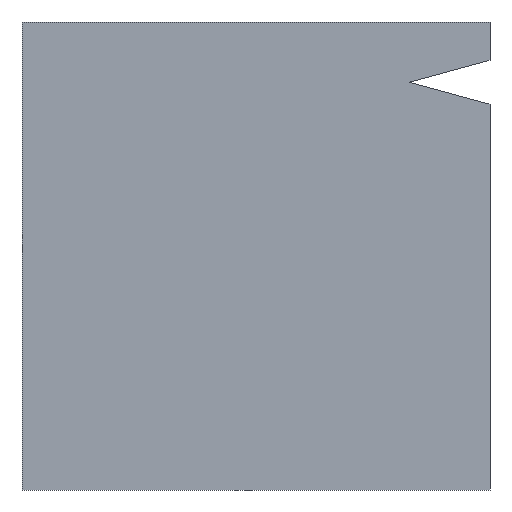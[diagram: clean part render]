
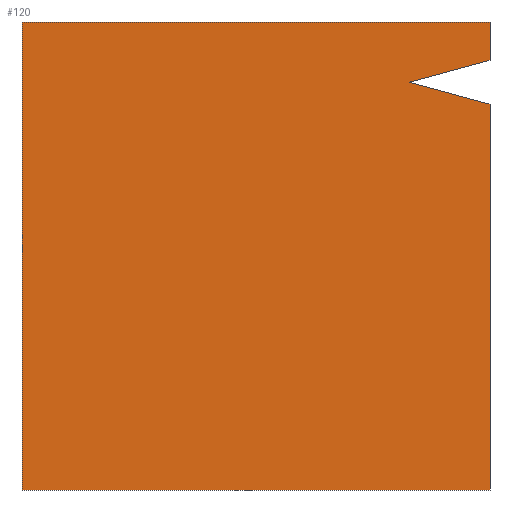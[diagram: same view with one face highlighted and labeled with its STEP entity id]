
A CAD part, front view. The second image highlights one B-rep face of the part: STEP entity #120.
In plain terms, the highlighted planar face has unit normal (0, -1, 0).
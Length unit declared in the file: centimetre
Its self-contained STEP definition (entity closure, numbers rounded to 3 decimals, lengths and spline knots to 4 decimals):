
#31 = LINE ( 'NONE', #240, #108 ) ;
#35 = ORIENTED_EDGE ( 'NONE', *, *, #460, .F. ) ;
#36 = DIRECTION ( 'NONE',  ( -0.965, 0., 0.263 ) ) ;
#38 = EDGE_CURVE ( 'NONE', #510, #434, #423, .T. ) ;
#56 = CARTESIAN_POINT ( 'NONE',  ( 827.1763, 0., 871.2382 ) ) ;
#64 = CARTESIAN_POINT ( 'NONE',  ( 1000., 0., 1000. ) ) ;
#104 = CARTESIAN_POINT ( 'NONE',  ( 0., 0., 0. ) ) ;
#108 = VECTOR ( 'NONE', #36, 100. ) ;
#116 = CARTESIAN_POINT ( 'NONE',  ( 0., 0., 1000. ) ) ;
#120 = ADVANCED_FACE ( 'NONE', ( #207 ), #332, .F. ) ;
#144 = CARTESIAN_POINT ( 'NONE',  ( 0., 0., 0. ) ) ;
#150 = ORIENTED_EDGE ( 'NONE', *, *, #554, .T. ) ;
#166 = CARTESIAN_POINT ( 'NONE',  ( 1000., 0., 1000. ) ) ;
#175 = DIRECTION ( 'NONE',  ( 0., 0., -1. ) ) ;
#181 = CARTESIAN_POINT ( 'NONE',  ( 827.1763, 0., 871.2382 ) ) ;
#194 = CARTESIAN_POINT ( 'NONE',  ( 1000., 0., 1000. ) ) ;
#207 = FACE_OUTER_BOUND ( 'NONE', #608, .T. ) ;
#220 = LINE ( 'NONE', #194, #523 ) ;
#240 = CARTESIAN_POINT ( 'NONE',  ( 1000., 0., 824.2117 ) ) ;
#247 = EDGE_CURVE ( 'NONE', #440, #434, #438, .T. ) ;
#259 = EDGE_CURVE ( 'NONE', #620, #440, #31, .T. ) ;
#266 = EDGE_CURVE ( 'NONE', #620, #616, #220, .T. ) ;
#273 = EDGE_CURVE ( 'NONE', #669, #616, #378, .T. ) ;
#298 = VERTEX_POINT ( 'NONE', #516 ) ;
#299 = VECTOR ( 'NONE', #175, 100. ) ;
#312 = CARTESIAN_POINT ( 'NONE',  ( 1000., 0., 918.2647 ) ) ;
#332 = PLANE ( 'NONE',  #445 ) ;
#377 = LINE ( 'NONE', #588, #299 ) ;
#378 = LINE ( 'NONE', #104, #579 ) ;
#382 = DIRECTION ( 'NONE',  ( 0., 0., 1. ) ) ;
#383 = CARTESIAN_POINT ( 'NONE',  ( 1000., 0., 824.2117 ) ) ;
#384 = ORIENTED_EDGE ( 'NONE', *, *, #273, .T. ) ;
#393 = ORIENTED_EDGE ( 'NONE', *, *, #259, .T. ) ;
#394 = ORIENTED_EDGE ( 'NONE', *, *, #266, .F. ) ;
#416 = DIRECTION ( 'NONE',  ( 1., 0., 0. ) ) ;
#423 = LINE ( 'NONE', #166, #479 ) ;
#431 = DIRECTION ( 'NONE',  ( 0., 0., -1. ) ) ;
#434 = VERTEX_POINT ( 'NONE', #312 ) ;
#436 = CARTESIAN_POINT ( 'NONE',  ( 1000., 0., 0. ) ) ;
#438 = LINE ( 'NONE', #181, #590 ) ;
#440 = VERTEX_POINT ( 'NONE', #56 ) ;
#445 = AXIS2_PLACEMENT_3D ( 'NONE', #541, #672, #382 ) ;
#458 = ORIENTED_EDGE ( 'NONE', *, *, #247, .T. ) ;
#460 = EDGE_CURVE ( 'NONE', #298, #510, #475, .T. ) ;
#475 = LINE ( 'NONE', #116, #491 ) ;
#479 = VECTOR ( 'NONE', #580, 100. ) ;
#491 = VECTOR ( 'NONE', #581, 100. ) ;
#506 = DIRECTION ( 'NONE',  ( 0.965, 0., 0.263 ) ) ;
#510 = VERTEX_POINT ( 'NONE', #64 ) ;
#516 = CARTESIAN_POINT ( 'NONE',  ( 0., 0., 1000. ) ) ;
#523 = VECTOR ( 'NONE', #431, 100. ) ;
#526 = ORIENTED_EDGE ( 'NONE', *, *, #38, .F. ) ;
#541 = CARTESIAN_POINT ( 'NONE',  ( 0., 0., 1000. ) ) ;
#554 = EDGE_CURVE ( 'NONE', #298, #669, #377, .T. ) ;
#579 = VECTOR ( 'NONE', #416, 100. ) ;
#580 = DIRECTION ( 'NONE',  ( 0., 0., -1. ) ) ;
#581 = DIRECTION ( 'NONE',  ( 1., 0., 0. ) ) ;
#588 = CARTESIAN_POINT ( 'NONE',  ( 0., 0., 1000. ) ) ;
#590 = VECTOR ( 'NONE', #506, 100. ) ;
#608 = EDGE_LOOP ( 'NONE', ( #393, #458, #526, #35, #150, #384, #394 ) ) ;
#616 = VERTEX_POINT ( 'NONE', #436 ) ;
#620 = VERTEX_POINT ( 'NONE', #383 ) ;
#669 = VERTEX_POINT ( 'NONE', #144 ) ;
#672 = DIRECTION ( 'NONE',  ( 0., 1., 0. ) ) ;
